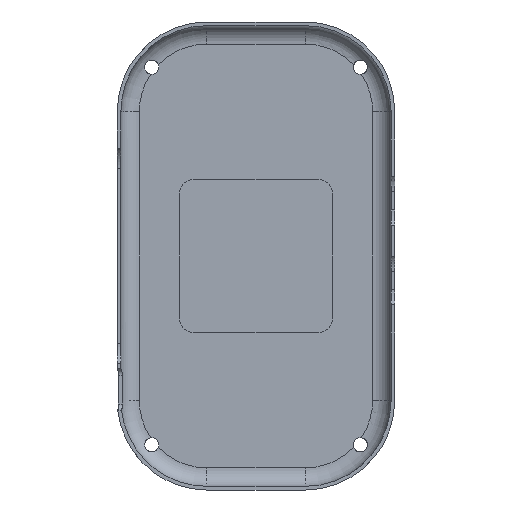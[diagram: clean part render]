
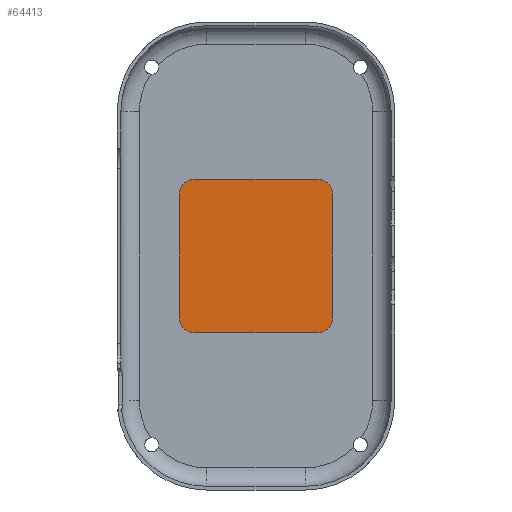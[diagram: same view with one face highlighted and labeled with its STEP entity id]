
A CAD part, front view. The second image highlights one B-rep face of the part: STEP entity #64413.
In plain terms, the highlighted planar face has unit normal (0, -1, 0).
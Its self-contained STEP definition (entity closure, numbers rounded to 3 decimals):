
#23049 = CYLINDRICAL_SURFACE('',#23050,5.);
#23050 = AXIS2_PLACEMENT_3D('',#23051,#23052,#23053);
#23051 = CARTESIAN_POINT('',(20.,13.2,-20.));
#23052 = DIRECTION('',(-0.,-1.,0.));
#23053 = DIRECTION('',(-1.,0.,0.));
#23076 = PLANE('',#23077);
#23077 = AXIS2_PLACEMENT_3D('',#23078,#23079,#23080);
#23078 = CARTESIAN_POINT('',(25.,13.2,-20.));
#23079 = DIRECTION('',(1.,-0.,0.));
#23080 = DIRECTION('',(0.,0.,1.));
#23105 = CYLINDRICAL_SURFACE('',#23106,5.);
#23106 = AXIS2_PLACEMENT_3D('',#23107,#23108,#23109);
#23107 = CARTESIAN_POINT('',(20.,13.2,20.));
#23108 = DIRECTION('',(-0.,-1.,0.));
#23109 = DIRECTION('',(-1.,0.,0.));
#23133 = PLANE('',#23134);
#23134 = AXIS2_PLACEMENT_3D('',#23135,#23136,#23137);
#23135 = CARTESIAN_POINT('',(20.,13.2,25.));
#23136 = DIRECTION('',(0.,0.,1.));
#23137 = DIRECTION('',(-1.,0.,0.));
#23162 = CYLINDRICAL_SURFACE('',#23163,5.);
#23163 = AXIS2_PLACEMENT_3D('',#23164,#23165,#23166);
#23164 = CARTESIAN_POINT('',(-20.,13.2,20.));
#23165 = DIRECTION('',(-0.,-1.,0.));
#23166 = DIRECTION('',(-1.,0.,0.));
#23190 = PLANE('',#23191);
#23191 = AXIS2_PLACEMENT_3D('',#23192,#23193,#23194);
#23192 = CARTESIAN_POINT('',(-25.,13.2,-20.));
#23193 = DIRECTION('',(1.,-0.,0.));
#23194 = DIRECTION('',(0.,0.,1.));
#23219 = CYLINDRICAL_SURFACE('',#23220,5.);
#23220 = AXIS2_PLACEMENT_3D('',#23221,#23222,#23223);
#23221 = CARTESIAN_POINT('',(-20.,13.2,-20.));
#23222 = DIRECTION('',(-0.,-1.,0.));
#23223 = DIRECTION('',(-1.,0.,0.));
#23244 = PLANE('',#23245);
#23245 = AXIS2_PLACEMENT_3D('',#23246,#23247,#23248);
#23246 = CARTESIAN_POINT('',(20.,13.2,-25.));
#23247 = DIRECTION('',(0.,0.,1.));
#23248 = DIRECTION('',(-1.,0.,0.));
#50681 = VERTEX_POINT('',#50682);
#50682 = CARTESIAN_POINT('',(20.,13.33,-25.));
#50703 = EDGE_CURVE('',#50704,#50681,#50706,.T.);
#50704 = VERTEX_POINT('',#50705);
#50705 = CARTESIAN_POINT('',(25.,13.33,-20.));
#50706 = SURFACE_CURVE('',#50707,(#50712,#50718),.PCURVE_S1.);
#50707 = CIRCLE('',#50708,5.);
#50708 = AXIS2_PLACEMENT_3D('',#50709,#50710,#50711);
#50709 = CARTESIAN_POINT('',(20.,13.33,-20.));
#50710 = DIRECTION('',(-0.,1.,0.));
#50711 = DIRECTION('',(1.,0.,0.));
#50712 = PCURVE('',#23049,#50713);
#50713 = DEFINITIONAL_REPRESENTATION('',(#50714),#50717);
#50714 = B_SPLINE_CURVE_WITH_KNOTS('',1,(#50715,#50716),.UNSPECIFIED.,
  .F.,.F.,(2,2),(0.,1.571),.PIECEWISE_BEZIER_KNOTS.);
#50715 = CARTESIAN_POINT('',(3.142,-0.13));
#50716 = CARTESIAN_POINT('',(1.571,-0.13));
#50717 = ( GEOMETRIC_REPRESENTATION_CONTEXT(2) 
PARAMETRIC_REPRESENTATION_CONTEXT() REPRESENTATION_CONTEXT('2D SPACE',''
  ) );
#50718 = PCURVE('',#50719,#50724);
#50719 = PLANE('',#50720);
#50720 = AXIS2_PLACEMENT_3D('',#50721,#50722,#50723);
#50721 = CARTESIAN_POINT('',(0.,13.33,0.));
#50722 = DIRECTION('',(0.,1.,0.));
#50723 = DIRECTION('',(1.,0.,0.));
#50724 = DEFINITIONAL_REPRESENTATION('',(#50725),#50729);
#50725 = CIRCLE('',#50726,5.);
#50726 = AXIS2_PLACEMENT_2D('',#50727,#50728);
#50727 = CARTESIAN_POINT('',(20.,20.));
#50728 = DIRECTION('',(1.,0.));
#50729 = ( GEOMETRIC_REPRESENTATION_CONTEXT(2) 
PARAMETRIC_REPRESENTATION_CONTEXT() REPRESENTATION_CONTEXT('2D SPACE',''
  ) );
#50756 = EDGE_CURVE('',#50757,#50704,#50759,.T.);
#50757 = VERTEX_POINT('',#50758);
#50758 = CARTESIAN_POINT('',(25.,13.33,20.));
#50759 = SURFACE_CURVE('',#50760,(#50764,#50771),.PCURVE_S1.);
#50760 = LINE('',#50761,#50762);
#50761 = CARTESIAN_POINT('',(25.,13.33,0.));
#50762 = VECTOR('',#50763,1.);
#50763 = DIRECTION('',(0.,0.,-1.));
#50764 = PCURVE('',#23076,#50765);
#50765 = DEFINITIONAL_REPRESENTATION('',(#50766),#50770);
#50766 = LINE('',#50767,#50768);
#50767 = CARTESIAN_POINT('',(20.,-0.13));
#50768 = VECTOR('',#50769,1.);
#50769 = DIRECTION('',(-1.,-0.));
#50770 = ( GEOMETRIC_REPRESENTATION_CONTEXT(2) 
PARAMETRIC_REPRESENTATION_CONTEXT() REPRESENTATION_CONTEXT('2D SPACE',''
  ) );
#50771 = PCURVE('',#50719,#50772);
#50772 = DEFINITIONAL_REPRESENTATION('',(#50773),#50777);
#50773 = LINE('',#50774,#50775);
#50774 = CARTESIAN_POINT('',(25.,0.));
#50775 = VECTOR('',#50776,1.);
#50776 = DIRECTION('',(0.,1.));
#50777 = ( GEOMETRIC_REPRESENTATION_CONTEXT(2) 
PARAMETRIC_REPRESENTATION_CONTEXT() REPRESENTATION_CONTEXT('2D SPACE',''
  ) );
#50806 = EDGE_CURVE('',#50807,#50757,#50809,.T.);
#50807 = VERTEX_POINT('',#50808);
#50808 = CARTESIAN_POINT('',(20.,13.33,25.));
#50809 = SURFACE_CURVE('',#50810,(#50815,#50822),.PCURVE_S1.);
#50810 = CIRCLE('',#50811,5.);
#50811 = AXIS2_PLACEMENT_3D('',#50812,#50813,#50814);
#50812 = CARTESIAN_POINT('',(20.,13.33,20.));
#50813 = DIRECTION('',(-0.,1.,0.));
#50814 = DIRECTION('',(1.,0.,0.));
#50815 = PCURVE('',#23105,#50816);
#50816 = DEFINITIONAL_REPRESENTATION('',(#50817),#50821);
#50817 = LINE('',#50818,#50819);
#50818 = CARTESIAN_POINT('',(9.425,-0.13));
#50819 = VECTOR('',#50820,1.);
#50820 = DIRECTION('',(-1.,0.));
#50821 = ( GEOMETRIC_REPRESENTATION_CONTEXT(2) 
PARAMETRIC_REPRESENTATION_CONTEXT() REPRESENTATION_CONTEXT('2D SPACE',''
  ) );
#50822 = PCURVE('',#50719,#50823);
#50823 = DEFINITIONAL_REPRESENTATION('',(#50824),#50828);
#50824 = CIRCLE('',#50825,5.);
#50825 = AXIS2_PLACEMENT_2D('',#50826,#50827);
#50826 = CARTESIAN_POINT('',(20.,-20.));
#50827 = DIRECTION('',(1.,0.));
#50828 = ( GEOMETRIC_REPRESENTATION_CONTEXT(2) 
PARAMETRIC_REPRESENTATION_CONTEXT() REPRESENTATION_CONTEXT('2D SPACE',''
  ) );
#50855 = EDGE_CURVE('',#50856,#50807,#50858,.T.);
#50856 = VERTEX_POINT('',#50857);
#50857 = CARTESIAN_POINT('',(-20.,13.33,25.));
#50858 = SURFACE_CURVE('',#50859,(#50863,#50870),.PCURVE_S1.);
#50859 = LINE('',#50860,#50861);
#50860 = CARTESIAN_POINT('',(0.,13.33,25.));
#50861 = VECTOR('',#50862,1.);
#50862 = DIRECTION('',(1.,0.,0.));
#50863 = PCURVE('',#23133,#50864);
#50864 = DEFINITIONAL_REPRESENTATION('',(#50865),#50869);
#50865 = LINE('',#50866,#50867);
#50866 = CARTESIAN_POINT('',(20.,-0.13));
#50867 = VECTOR('',#50868,1.);
#50868 = DIRECTION('',(-1.,0.));
#50869 = ( GEOMETRIC_REPRESENTATION_CONTEXT(2) 
PARAMETRIC_REPRESENTATION_CONTEXT() REPRESENTATION_CONTEXT('2D SPACE',''
  ) );
#50870 = PCURVE('',#50719,#50871);
#50871 = DEFINITIONAL_REPRESENTATION('',(#50872),#50876);
#50872 = LINE('',#50873,#50874);
#50873 = CARTESIAN_POINT('',(0.,-25.));
#50874 = VECTOR('',#50875,1.);
#50875 = DIRECTION('',(1.,0.));
#50876 = ( GEOMETRIC_REPRESENTATION_CONTEXT(2) 
PARAMETRIC_REPRESENTATION_CONTEXT() REPRESENTATION_CONTEXT('2D SPACE',''
  ) );
#50905 = EDGE_CURVE('',#50906,#50856,#50908,.T.);
#50906 = VERTEX_POINT('',#50907);
#50907 = CARTESIAN_POINT('',(-25.,13.33,20.));
#50908 = SURFACE_CURVE('',#50909,(#50914,#50921),.PCURVE_S1.);
#50909 = CIRCLE('',#50910,5.);
#50910 = AXIS2_PLACEMENT_3D('',#50911,#50912,#50913);
#50911 = CARTESIAN_POINT('',(-20.,13.33,20.));
#50912 = DIRECTION('',(-0.,1.,0.));
#50913 = DIRECTION('',(1.,0.,0.));
#50914 = PCURVE('',#23162,#50915);
#50915 = DEFINITIONAL_REPRESENTATION('',(#50916),#50920);
#50916 = LINE('',#50917,#50918);
#50917 = CARTESIAN_POINT('',(9.425,-0.13));
#50918 = VECTOR('',#50919,1.);
#50919 = DIRECTION('',(-1.,0.));
#50920 = ( GEOMETRIC_REPRESENTATION_CONTEXT(2) 
PARAMETRIC_REPRESENTATION_CONTEXT() REPRESENTATION_CONTEXT('2D SPACE',''
  ) );
#50921 = PCURVE('',#50719,#50922);
#50922 = DEFINITIONAL_REPRESENTATION('',(#50923),#50927);
#50923 = CIRCLE('',#50924,5.);
#50924 = AXIS2_PLACEMENT_2D('',#50925,#50926);
#50925 = CARTESIAN_POINT('',(-20.,-20.));
#50926 = DIRECTION('',(1.,0.));
#50927 = ( GEOMETRIC_REPRESENTATION_CONTEXT(2) 
PARAMETRIC_REPRESENTATION_CONTEXT() REPRESENTATION_CONTEXT('2D SPACE',''
  ) );
#50954 = VERTEX_POINT('',#50955);
#50955 = CARTESIAN_POINT('',(-25.,13.33,-20.));
#50976 = EDGE_CURVE('',#50906,#50954,#50977,.T.);
#50977 = SURFACE_CURVE('',#50978,(#50982,#50989),.PCURVE_S1.);
#50978 = LINE('',#50979,#50980);
#50979 = CARTESIAN_POINT('',(-25.,13.33,0.));
#50980 = VECTOR('',#50981,1.);
#50981 = DIRECTION('',(0.,0.,-1.));
#50982 = PCURVE('',#23190,#50983);
#50983 = DEFINITIONAL_REPRESENTATION('',(#50984),#50988);
#50984 = LINE('',#50985,#50986);
#50985 = CARTESIAN_POINT('',(20.,-0.13));
#50986 = VECTOR('',#50987,1.);
#50987 = DIRECTION('',(-1.,-0.));
#50988 = ( GEOMETRIC_REPRESENTATION_CONTEXT(2) 
PARAMETRIC_REPRESENTATION_CONTEXT() REPRESENTATION_CONTEXT('2D SPACE',''
  ) );
#50989 = PCURVE('',#50719,#50990);
#50990 = DEFINITIONAL_REPRESENTATION('',(#50991),#50995);
#50991 = LINE('',#50992,#50993);
#50992 = CARTESIAN_POINT('',(-25.,0.));
#50993 = VECTOR('',#50994,1.);
#50994 = DIRECTION('',(0.,1.));
#50995 = ( GEOMETRIC_REPRESENTATION_CONTEXT(2) 
PARAMETRIC_REPRESENTATION_CONTEXT() REPRESENTATION_CONTEXT('2D SPACE',''
  ) );
#51004 = EDGE_CURVE('',#51005,#50954,#51007,.T.);
#51005 = VERTEX_POINT('',#51006);
#51006 = CARTESIAN_POINT('',(-20.,13.33,-25.));
#51007 = SURFACE_CURVE('',#51008,(#51013,#51019),.PCURVE_S1.);
#51008 = CIRCLE('',#51009,5.);
#51009 = AXIS2_PLACEMENT_3D('',#51010,#51011,#51012);
#51010 = CARTESIAN_POINT('',(-20.,13.33,-20.));
#51011 = DIRECTION('',(-0.,1.,0.));
#51012 = DIRECTION('',(1.,0.,0.));
#51013 = PCURVE('',#23219,#51014);
#51014 = DEFINITIONAL_REPRESENTATION('',(#51015),#51018);
#51015 = B_SPLINE_CURVE_WITH_KNOTS('',1,(#51016,#51017),.UNSPECIFIED.,
  .F.,.F.,(2,2),(1.571,3.142),
  .PIECEWISE_BEZIER_KNOTS.);
#51016 = CARTESIAN_POINT('',(1.571,-0.13));
#51017 = CARTESIAN_POINT('',(0.,-0.13));
#51018 = ( GEOMETRIC_REPRESENTATION_CONTEXT(2) 
PARAMETRIC_REPRESENTATION_CONTEXT() REPRESENTATION_CONTEXT('2D SPACE',''
  ) );
#51019 = PCURVE('',#50719,#51020);
#51020 = DEFINITIONAL_REPRESENTATION('',(#51021),#51025);
#51021 = CIRCLE('',#51022,5.);
#51022 = AXIS2_PLACEMENT_2D('',#51023,#51024);
#51023 = CARTESIAN_POINT('',(-20.,20.));
#51024 = DIRECTION('',(1.,0.));
#51025 = ( GEOMETRIC_REPRESENTATION_CONTEXT(2) 
PARAMETRIC_REPRESENTATION_CONTEXT() REPRESENTATION_CONTEXT('2D SPACE',''
  ) );
#51052 = EDGE_CURVE('',#51005,#50681,#51053,.T.);
#51053 = SURFACE_CURVE('',#51054,(#51058,#51065),.PCURVE_S1.);
#51054 = LINE('',#51055,#51056);
#51055 = CARTESIAN_POINT('',(0.,13.33,-25.));
#51056 = VECTOR('',#51057,1.);
#51057 = DIRECTION('',(1.,0.,0.));
#51058 = PCURVE('',#23244,#51059);
#51059 = DEFINITIONAL_REPRESENTATION('',(#51060),#51064);
#51060 = LINE('',#51061,#51062);
#51061 = CARTESIAN_POINT('',(20.,-0.13));
#51062 = VECTOR('',#51063,1.);
#51063 = DIRECTION('',(-1.,0.));
#51064 = ( GEOMETRIC_REPRESENTATION_CONTEXT(2) 
PARAMETRIC_REPRESENTATION_CONTEXT() REPRESENTATION_CONTEXT('2D SPACE',''
  ) );
#51065 = PCURVE('',#50719,#51066);
#51066 = DEFINITIONAL_REPRESENTATION('',(#51067),#51071);
#51067 = LINE('',#51068,#51069);
#51068 = CARTESIAN_POINT('',(0.,25.));
#51069 = VECTOR('',#51070,1.);
#51070 = DIRECTION('',(1.,0.));
#51071 = ( GEOMETRIC_REPRESENTATION_CONTEXT(2) 
PARAMETRIC_REPRESENTATION_CONTEXT() REPRESENTATION_CONTEXT('2D SPACE',''
  ) );
#64413 = ADVANCED_FACE('',(#64414),#50719,.F.);
#64414 = FACE_BOUND('',#64415,.F.);
#64415 = EDGE_LOOP('',(#64416,#64417,#64418,#64419,#64420,#64421,#64422,
    #64423));
#64416 = ORIENTED_EDGE('',*,*,#50976,.F.);
#64417 = ORIENTED_EDGE('',*,*,#50905,.T.);
#64418 = ORIENTED_EDGE('',*,*,#50855,.T.);
#64419 = ORIENTED_EDGE('',*,*,#50806,.T.);
#64420 = ORIENTED_EDGE('',*,*,#50756,.T.);
#64421 = ORIENTED_EDGE('',*,*,#50703,.T.);
#64422 = ORIENTED_EDGE('',*,*,#51052,.F.);
#64423 = ORIENTED_EDGE('',*,*,#51004,.T.);
